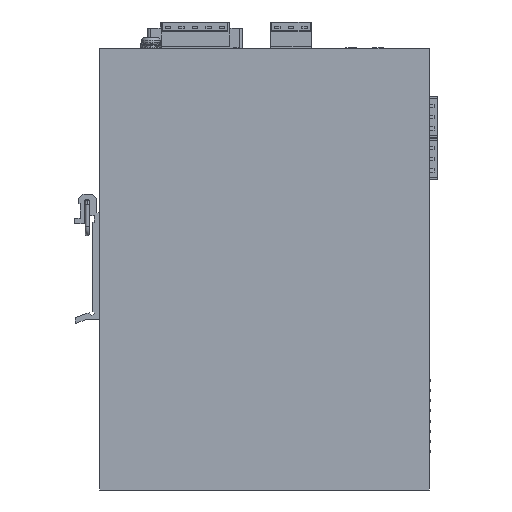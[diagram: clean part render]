
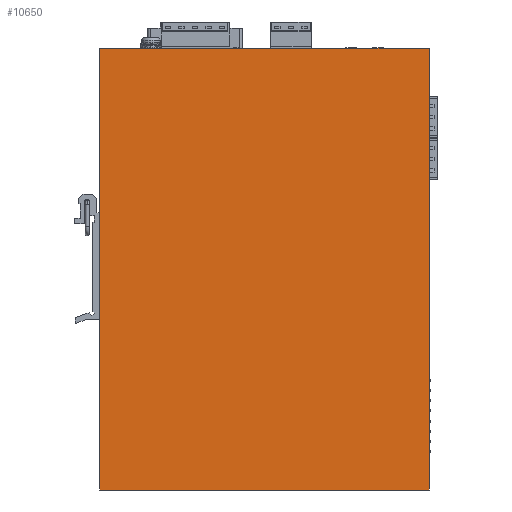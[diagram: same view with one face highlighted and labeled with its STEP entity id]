
A CAD part, left-side view. The second image highlights one B-rep face of the part: STEP entity #10650.
In plain terms, the highlighted planar face has unit normal (-1, 0, 0).
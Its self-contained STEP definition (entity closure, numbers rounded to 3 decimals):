
#503=CARTESIAN_POINT('',(0.004,123.1,165.));
#504=VERTEX_POINT('',#503);
#505=CARTESIAN_POINT('',(0.,0.,165.));
#506=VERTEX_POINT('',#505);
#507=CARTESIAN_POINT('',(0.004,123.1,165.));
#508=DIRECTION('',(0.,-1.,0.));
#509=VECTOR('',#508,123.1);
#510=LINE('',#507,#509);
#511=EDGE_CURVE('',#504,#506,#510,.T.);
#6256=CARTESIAN_POINT('',(0.,0.,0.));
#6257=VERTEX_POINT('',#6256);
#6258=CARTESIAN_POINT('',(0.,0.,165.));
#6259=DIRECTION('',(-0.,-0.,-1.));
#6260=VECTOR('',#6259,165.);
#6261=LINE('',#6258,#6260);
#6262=EDGE_CURVE('',#506,#6257,#6261,.T.);
#6733=CARTESIAN_POINT('',(0.004,123.1,0.));
#6734=VERTEX_POINT('',#6733);
#6741=CARTESIAN_POINT('',(0.004,123.1,0.));
#6742=DIRECTION('',(0.,-0.,1.));
#6743=VECTOR('',#6742,165.);
#6744=LINE('',#6741,#6743);
#6745=EDGE_CURVE('',#6734,#504,#6744,.T.);
#10615=CARTESIAN_POINT('',(0.004,123.1,0.));
#10616=DIRECTION('',(0.,-1.,0.));
#10617=VECTOR('',#10616,123.1);
#10618=LINE('',#10615,#10617);
#10619=EDGE_CURVE('',#6734,#6257,#10618,.T.);
#10639=CARTESIAN_POINT('',(0.004,139.206,165.));
#10640=DIRECTION('',(-1.,0.,0.));
#10641=DIRECTION('',(0.,1.,-0.));
#10642=AXIS2_PLACEMENT_3D('',#10639,#10640,#10641);
#10643=PLANE('',#10642);
#10644=ORIENTED_EDGE('',*,*,#6745,.F.);
#10645=ORIENTED_EDGE('',*,*,#10619,.T.);
#10646=ORIENTED_EDGE('',*,*,#6262,.F.);
#10647=ORIENTED_EDGE('',*,*,#511,.F.);
#10648=EDGE_LOOP('',(#10644,#10645,#10646,#10647));
#10649=FACE_BOUND('',#10648,.T.);
#10650=ADVANCED_FACE('',(#10649),#10643,.T.);
